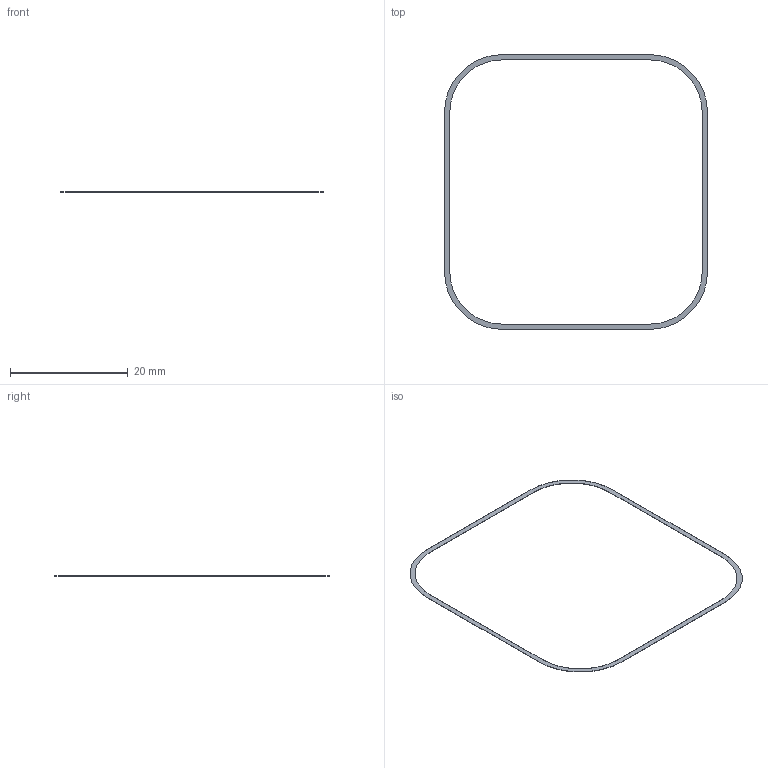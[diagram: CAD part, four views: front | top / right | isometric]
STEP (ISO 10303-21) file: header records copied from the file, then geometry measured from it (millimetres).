
FILE_DESCRIPTION(/* description */ (''),/* implementation_level */ '2;1');
FILE_NAME(/* name */ 'C28_R1_62_Scrim_Perimeter_Bond_Film.step',/* time_stamp */ '2026-09-10T17:49:47-07:00',/* author */ (''),/* organization */ (''),/* preprocessor_version */ 'ST-DEVELOPER v20.1',/* originating_system */ 'Autodesk Translation Framework v15.8.0.0',/* authorisation */ '');
FILE_SCHEMA (('AUTOMOTIVE_DESIGN { 1 0 10303 214 3 1 1 }'));
Length unit declared in the file: millimetre
Products named in the file (1): 2026-09-10-17-49-47-432
Bounding box: 44.6 x 46.6 x 0.05 mm (x, y, z)
Volume: 7.3 mm3; surface area: 309.2 mm2
Topology: 1 solids, 1 shells, 18 faces, 48 edges, 32 vertices
Faces by surface type: plane 10, cylinder 8
Entity records: 605 total; most frequent: DIRECTION 102, CARTESIAN_POINT 99, ORIENTED_EDGE 96, EDGE_CURVE 48, AXIS2_PLACEMENT_3D 35, LINE 32, VECTOR 32, VERTEX_POINT 32
